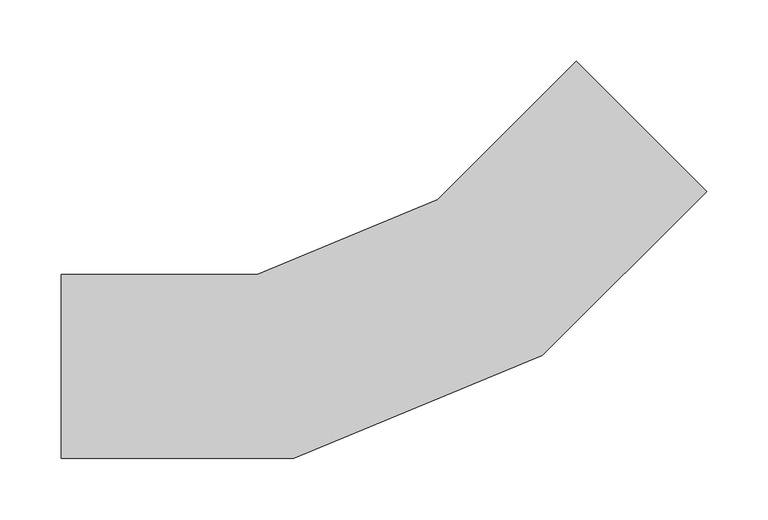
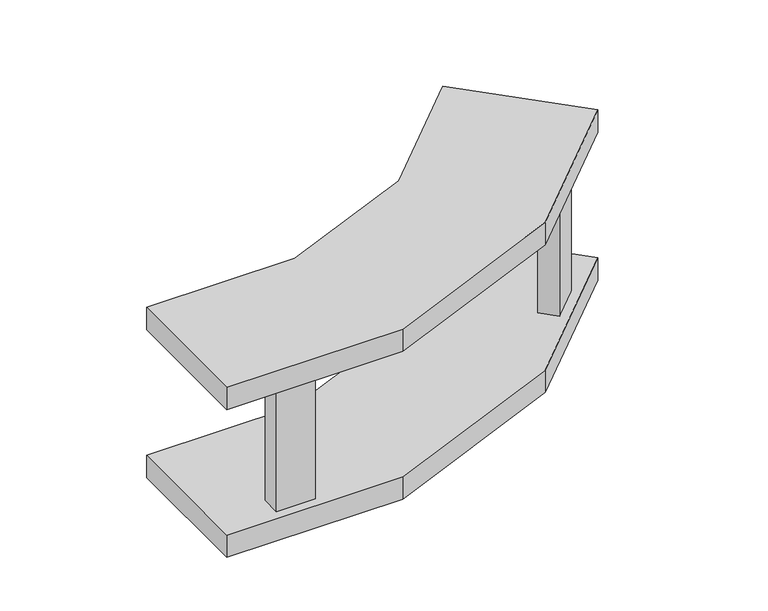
"""IFC4 building model written with IfcOpenShell, lengths in millimetres: cable carrier fitting geometry, Legrand_CableLadder_Swifts_Emerald_InsideRiser-13 : Hot Dip Galvanised (after manufacture)."""

from ifc_helpers import new_model, si_unit, frame, origin, place, context, project, spatial, polyline, outline, extrude, source, transform, mapped, element, save


def cable_carrier_fitting_81220605(model_context):
    return source(origin(), model_context, "Body", "SweptSolid", [
        extrude(outline(polyline([(-217.9585489, -44.0), (-175.9585489, -44.0), (-175.9585489, -65.0), (-217.9585489, -65.0), (-217.9585489, -44.0)])), frame((0.0, 0.0, -71.5), z_axis=(0.0, 0.0, 1.0), x_axis=(1.0, 0.0, 0.0)), (0.0, 0.0, 1.0), 143.0),
        extrude(outline(polyline([(155.5341815, 93.3087848), (185.2326663, 123.0072696), (200.0819087, 108.1580272), (170.3834239, 78.4595424), (155.5341815, 93.3087848)])), frame((0.0, 0.0, -71.5), z_axis=(0.0, 0.0, 1.0), x_axis=(1.0, 0.0, 0.0)), (0.0, 0.0, 1.0), 143.0),
        extrude(outline(polyline([(-87.4572907, -75.0), (-276.9585489, -75.0), (-276.9585489, 75.0), (-117.2941458, 75.0), (29.9064773, 135.9724945), (142.8062595, 248.8722766), (248.8722766, 142.8062595), (114.8746519, 8.8086347), (-87.4572907, -75.0)])), frame((0.0, 0.0, -97.0), z_axis=(0.0, 0.0, 1.0), x_axis=(1.0, 0.0, 0.0)), (0.0, 0.0, 1.0), 25.5),
        extrude(outline(polyline([(-276.9585489, -75.0), (-276.9585489, 75.0), (-117.2941458, 75.0), (29.9064773, 135.9724945), (142.8062595, 248.8722766), (248.8722766, 142.8062595), (114.8746519, 8.8086347), (-87.4572907, -75.0), (-276.9585489, -75.0)])), frame((0.0, 0.0, 71.5), z_axis=(0.0, 0.0, 1.0), x_axis=(1.0, 0.0, 0.0)), (0.0, 0.0, 1.0), 25.5),
    ])


if __name__ == "__main__":
    model = new_model("IFC4")
    model_context = context("Model", 3, world=origin())
    ifc_project = project(units=[si_unit("LENGTHUNIT", "METRE", prefix="MILLI")], contexts=[model_context])
    site = spatial("IfcSite", under=ifc_project)
    building = spatial("IfcBuilding", under=site)
    placement = place(None, origin())
    cable_carrier_fitting_shape = cable_carrier_fitting_81220605(model_context)
    element("IfcCableCarrierFitting", 1, ObjectType="Legrand_CableLadder_Swifts_Emerald_InsideRiser-13 : Hot Dip Galvanised (after manufacture)", at=placement, inside=building, context=model_context, shape_type="MappedRepresentation", body=[
        mapped(cable_carrier_fitting_shape, transform((0.0, 0.0, 0.0), x_axis=(1.0, 0.0, 0.0), y_axis=(0.0, 1.0, 0.0), z_axis=(0.0, 0.0, 1.0))),
    ])
    save(model, "model.ifc")
